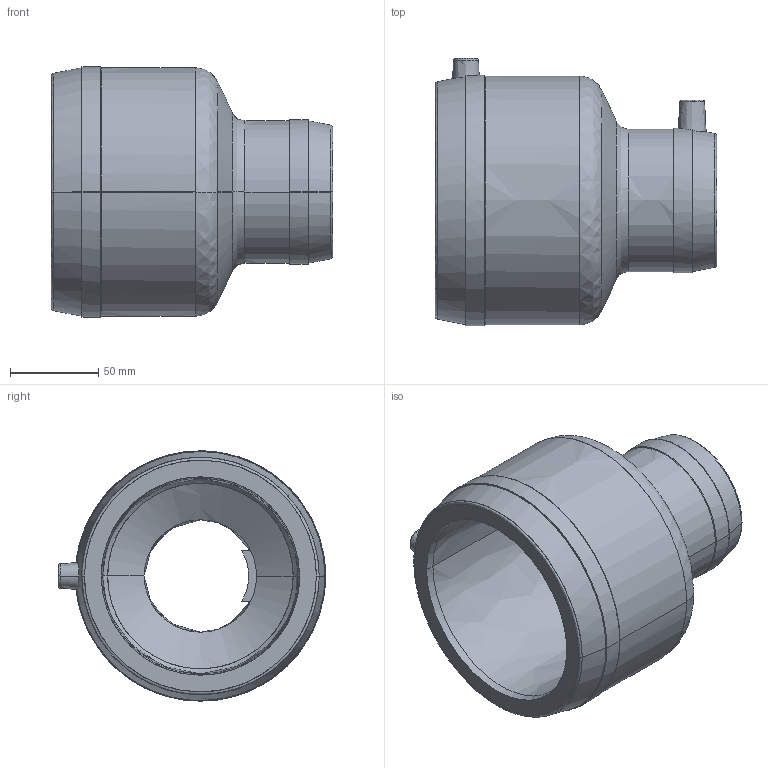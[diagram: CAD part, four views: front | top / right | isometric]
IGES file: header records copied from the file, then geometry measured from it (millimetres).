
Start section:  PTC IGES file: mr_d110-063_01.igs
Global section: file name: mr_d110-063_01.igs; native system: Pro/ENGINEER by Parametric Technology Corporation; preprocessor: 2011490; author: mtunjic; organization: Unknown; date: 20130816.164443; units: millimetre
Bounding box: 160 x 151.78 x 142.2 mm (x, y, z)
Surface area: 121535.4 mm2 (no closed solid volume)
Topology: 0 solids, 0 shells, 186 faces, 934 edges, 934 vertices
Faces by surface type: bspline 186
